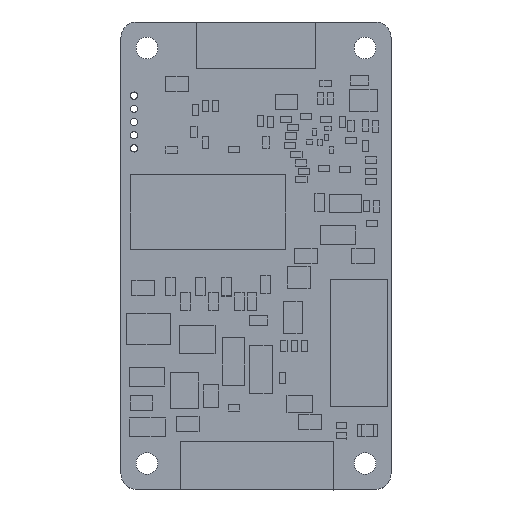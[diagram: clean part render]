
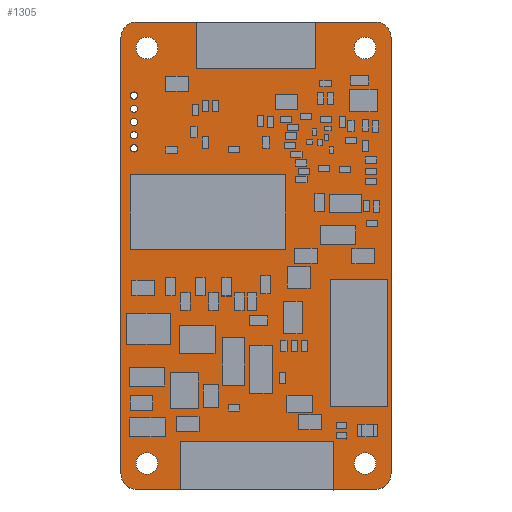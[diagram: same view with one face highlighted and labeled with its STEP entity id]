
A CAD part, top view. The second image highlights one B-rep face of the part: STEP entity #1305.
In plain terms, the highlighted planar face has unit normal (0, 0, 1).
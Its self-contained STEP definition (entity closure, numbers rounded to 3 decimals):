
#716 = VERTEX_POINT('',#717);
#717 = CARTESIAN_POINT('',(51.5,50.,1.529));
#723 = EDGE_CURVE('',#716,#724,#726,.T.);
#724 = VERTEX_POINT('',#725);
#725 = CARTESIAN_POINT('',(50.,51.5,1.529));
#726 = CIRCLE('',#727,1.499);
#727 = AXIS2_PLACEMENT_3D('',#728,#729,#730);
#728 = CARTESIAN_POINT('',(51.499,51.499,1.529));
#729 = DIRECTION('',(0.,0.,-1.));
#730 = DIRECTION('',(0.001,-1.,0.));
#756 = EDGE_CURVE('',#724,#757,#759,.T.);
#757 = VERTEX_POINT('',#758);
#758 = CARTESIAN_POINT('',(50.,93.5,1.529));
#759 = LINE('',#760,#761);
#760 = CARTESIAN_POINT('',(50.,51.5,1.529));
#761 = VECTOR('',#762,1.);
#762 = DIRECTION('',(0.,1.,0.));
#787 = EDGE_CURVE('',#757,#788,#790,.T.);
#788 = VERTEX_POINT('',#789);
#789 = CARTESIAN_POINT('',(51.5,95.,1.529));
#790 = CIRCLE('',#791,1.499);
#791 = AXIS2_PLACEMENT_3D('',#792,#793,#794);
#792 = CARTESIAN_POINT('',(51.499,93.501,1.529));
#793 = DIRECTION('',(0.,0.,-1.));
#794 = DIRECTION('',(-1.,-0.001,-0.));
#820 = EDGE_CURVE('',#788,#821,#823,.T.);
#821 = VERTEX_POINT('',#822);
#822 = CARTESIAN_POINT('',(74.5,95.,1.529));
#823 = LINE('',#824,#825);
#824 = CARTESIAN_POINT('',(51.5,95.,1.529));
#825 = VECTOR('',#826,1.);
#826 = DIRECTION('',(1.,0.,0.));
#851 = EDGE_CURVE('',#821,#852,#854,.T.);
#852 = VERTEX_POINT('',#853);
#853 = CARTESIAN_POINT('',(76.,93.5,1.529));
#854 = CIRCLE('',#855,1.499);
#855 = AXIS2_PLACEMENT_3D('',#856,#857,#858);
#856 = CARTESIAN_POINT('',(74.501,93.501,1.529));
#857 = DIRECTION('',(0.,0.,-1.));
#858 = DIRECTION('',(-0.001,1.,0.));
#884 = EDGE_CURVE('',#852,#885,#887,.T.);
#885 = VERTEX_POINT('',#886);
#886 = CARTESIAN_POINT('',(76.,51.5,1.529));
#887 = LINE('',#888,#889);
#888 = CARTESIAN_POINT('',(76.,93.5,1.529));
#889 = VECTOR('',#890,1.);
#890 = DIRECTION('',(0.,-1.,0.));
#915 = EDGE_CURVE('',#885,#916,#918,.T.);
#916 = VERTEX_POINT('',#917);
#917 = CARTESIAN_POINT('',(74.5,50.,1.529));
#918 = CIRCLE('',#919,1.499);
#919 = AXIS2_PLACEMENT_3D('',#920,#921,#922);
#920 = CARTESIAN_POINT('',(74.501,51.499,1.529));
#921 = DIRECTION('',(0.,0.,-1.));
#922 = DIRECTION('',(1.,0.001,0.));
#948 = EDGE_CURVE('',#916,#716,#949,.T.);
#949 = LINE('',#950,#951);
#950 = CARTESIAN_POINT('',(74.5,50.,1.529));
#951 = VECTOR('',#952,1.);
#952 = DIRECTION('',(-1.,0.,0.));
#972 = VERTEX_POINT('',#973);
#973 = CARTESIAN_POINT('',(51.607,84.106,1.529));
#979 = EDGE_CURVE('',#972,#972,#980,.T.);
#980 = CIRCLE('',#981,0.35);
#981 = AXIS2_PLACEMENT_3D('',#982,#983,#984);
#982 = CARTESIAN_POINT('',(51.257,84.106,1.529));
#983 = DIRECTION('',(0.,0.,1.));
#984 = DIRECTION('',(1.,0.,-0.));
#1005 = VERTEX_POINT('',#1006);
#1006 = CARTESIAN_POINT('',(51.607,82.836,1.529));
#1012 = EDGE_CURVE('',#1005,#1005,#1013,.T.);
#1013 = CIRCLE('',#1014,0.35);
#1014 = AXIS2_PLACEMENT_3D('',#1015,#1016,#1017);
#1015 = CARTESIAN_POINT('',(51.257,82.836,1.529));
#1016 = DIRECTION('',(0.,0.,1.));
#1017 = DIRECTION('',(1.,0.,-0.));
#1038 = VERTEX_POINT('',#1039);
#1039 = CARTESIAN_POINT('',(51.607,87.916,1.529));
#1045 = EDGE_CURVE('',#1038,#1038,#1046,.T.);
#1046 = CIRCLE('',#1047,0.35);
#1047 = AXIS2_PLACEMENT_3D('',#1048,#1049,#1050);
#1048 = CARTESIAN_POINT('',(51.257,87.916,1.529));
#1049 = DIRECTION('',(0.,0.,1.));
#1050 = DIRECTION('',(1.,0.,-0.));
#1071 = VERTEX_POINT('',#1072);
#1072 = CARTESIAN_POINT('',(51.607,85.376,1.529));
#1078 = EDGE_CURVE('',#1071,#1071,#1079,.T.);
#1079 = CIRCLE('',#1080,0.35);
#1080 = AXIS2_PLACEMENT_3D('',#1081,#1082,#1083);
#1081 = CARTESIAN_POINT('',(51.257,85.376,1.529));
#1082 = DIRECTION('',(0.,0.,1.));
#1083 = DIRECTION('',(1.,0.,-0.));
#1104 = VERTEX_POINT('',#1105);
#1105 = CARTESIAN_POINT('',(53.55,52.5,1.529));
#1111 = EDGE_CURVE('',#1104,#1104,#1112,.T.);
#1112 = CIRCLE('',#1113,1.05);
#1113 = AXIS2_PLACEMENT_3D('',#1114,#1115,#1116);
#1114 = CARTESIAN_POINT('',(52.5,52.5,1.529));
#1115 = DIRECTION('',(0.,0.,1.));
#1116 = DIRECTION('',(1.,0.,-0.));
#1137 = VERTEX_POINT('',#1138);
#1138 = CARTESIAN_POINT('',(74.55,52.5,1.529));
#1144 = EDGE_CURVE('',#1137,#1137,#1145,.T.);
#1145 = CIRCLE('',#1146,1.05);
#1146 = AXIS2_PLACEMENT_3D('',#1147,#1148,#1149);
#1147 = CARTESIAN_POINT('',(73.5,52.5,1.529));
#1148 = DIRECTION('',(0.,0.,1.));
#1149 = DIRECTION('',(1.,0.,-0.));
#1170 = VERTEX_POINT('',#1171);
#1171 = CARTESIAN_POINT('',(51.607,86.646,1.529));
#1177 = EDGE_CURVE('',#1170,#1170,#1178,.T.);
#1178 = CIRCLE('',#1179,0.35);
#1179 = AXIS2_PLACEMENT_3D('',#1180,#1181,#1182);
#1180 = CARTESIAN_POINT('',(51.257,86.646,1.529));
#1181 = DIRECTION('',(0.,0.,1.));
#1182 = DIRECTION('',(1.,0.,-0.));
#1203 = VERTEX_POINT('',#1204);
#1204 = CARTESIAN_POINT('',(74.55,92.5,1.529));
#1210 = EDGE_CURVE('',#1203,#1203,#1211,.T.);
#1211 = CIRCLE('',#1212,1.05);
#1212 = AXIS2_PLACEMENT_3D('',#1213,#1214,#1215);
#1213 = CARTESIAN_POINT('',(73.5,92.5,1.529));
#1214 = DIRECTION('',(0.,0.,1.));
#1215 = DIRECTION('',(1.,0.,-0.));
#1236 = VERTEX_POINT('',#1237);
#1237 = CARTESIAN_POINT('',(53.55,92.5,1.529));
#1243 = EDGE_CURVE('',#1236,#1236,#1244,.T.);
#1244 = CIRCLE('',#1245,1.05);
#1245 = AXIS2_PLACEMENT_3D('',#1246,#1247,#1248);
#1246 = CARTESIAN_POINT('',(52.5,92.5,1.529));
#1247 = DIRECTION('',(0.,0.,1.));
#1248 = DIRECTION('',(1.,0.,-0.));
#1305 = ADVANCED_FACE('',(#1306,#1316,#1319,#1322,#1325,#1328,#1331,
    #1334,#1337,#1340),#1343,.F.);
#1306 = FACE_BOUND('',#1307,.F.);
#1307 = EDGE_LOOP('',(#1308,#1309,#1310,#1311,#1312,#1313,#1314,#1315));
#1308 = ORIENTED_EDGE('',*,*,#723,.T.);
#1309 = ORIENTED_EDGE('',*,*,#756,.T.);
#1310 = ORIENTED_EDGE('',*,*,#787,.T.);
#1311 = ORIENTED_EDGE('',*,*,#820,.T.);
#1312 = ORIENTED_EDGE('',*,*,#851,.T.);
#1313 = ORIENTED_EDGE('',*,*,#884,.T.);
#1314 = ORIENTED_EDGE('',*,*,#915,.T.);
#1315 = ORIENTED_EDGE('',*,*,#948,.T.);
#1316 = FACE_BOUND('',#1317,.F.);
#1317 = EDGE_LOOP('',(#1318));
#1318 = ORIENTED_EDGE('',*,*,#979,.T.);
#1319 = FACE_BOUND('',#1320,.F.);
#1320 = EDGE_LOOP('',(#1321));
#1321 = ORIENTED_EDGE('',*,*,#1012,.T.);
#1322 = FACE_BOUND('',#1323,.F.);
#1323 = EDGE_LOOP('',(#1324));
#1324 = ORIENTED_EDGE('',*,*,#1045,.T.);
#1325 = FACE_BOUND('',#1326,.F.);
#1326 = EDGE_LOOP('',(#1327));
#1327 = ORIENTED_EDGE('',*,*,#1078,.T.);
#1328 = FACE_BOUND('',#1329,.F.);
#1329 = EDGE_LOOP('',(#1330));
#1330 = ORIENTED_EDGE('',*,*,#1111,.T.);
#1331 = FACE_BOUND('',#1332,.F.);
#1332 = EDGE_LOOP('',(#1333));
#1333 = ORIENTED_EDGE('',*,*,#1144,.T.);
#1334 = FACE_BOUND('',#1335,.F.);
#1335 = EDGE_LOOP('',(#1336));
#1336 = ORIENTED_EDGE('',*,*,#1177,.T.);
#1337 = FACE_BOUND('',#1338,.F.);
#1338 = EDGE_LOOP('',(#1339));
#1339 = ORIENTED_EDGE('',*,*,#1210,.T.);
#1340 = FACE_BOUND('',#1341,.F.);
#1341 = EDGE_LOOP('',(#1342));
#1342 = ORIENTED_EDGE('',*,*,#1243,.T.);
#1343 = PLANE('',#1344);
#1344 = AXIS2_PLACEMENT_3D('',#1345,#1346,#1347);
#1345 = CARTESIAN_POINT('',(63.,72.5,1.529));
#1346 = DIRECTION('',(-0.,-0.,-1.));
#1347 = DIRECTION('',(-1.,0.,0.));
